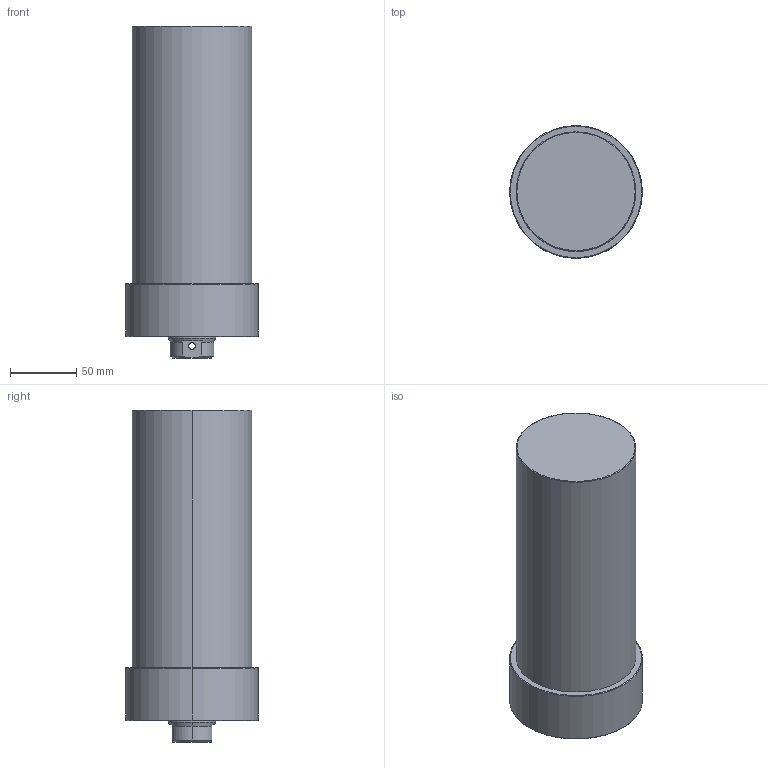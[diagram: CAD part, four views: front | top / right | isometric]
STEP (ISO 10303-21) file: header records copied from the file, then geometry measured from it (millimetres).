
FILE_DESCRIPTION (( 'STEP AP203' ), '1' );
FILE_NAME ('CLLU-090GB-150.STEP', '2020-01-13T05:58:02', ( '' ), ( '' ), 'SwSTEP 2.0', 'SolidWorks 2015', '' );
FILE_SCHEMA (( 'CONFIG_CONTROL_DESIGN' ));
Length unit declared in the file: millimetre
Products named in the file (1): CLLU-090GB-150
Bounding box: 100 x 100 x 250 mm (x, y, z)
Volume: 1541822.9 mm3; surface area: 90452.3 mm2
Topology: 1 solids, 1 shells, 68 faces, 155 edges, 88 vertices
Faces by surface type: cylinder 27, cone 25, plane 10, torus 6
Entity records: 2061 total; most frequent: CARTESIAN_POINT 462, DIRECTION 350, ORIENTED_EDGE 290, AXIS2_PLACEMENT_3D 148, EDGE_CURVE 145, VERTEX_POINT 88, EDGE_LOOP 81, CIRCLE 79
